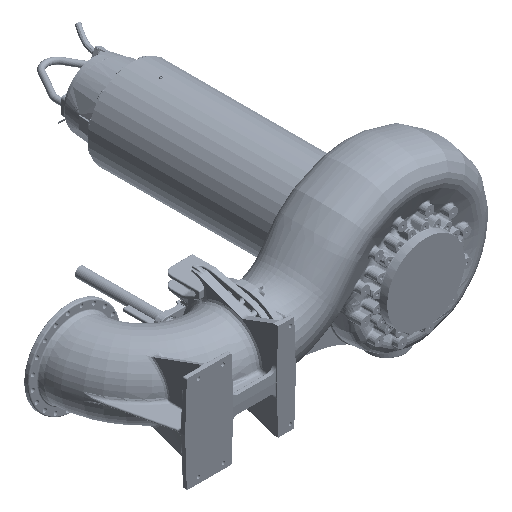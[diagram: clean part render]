
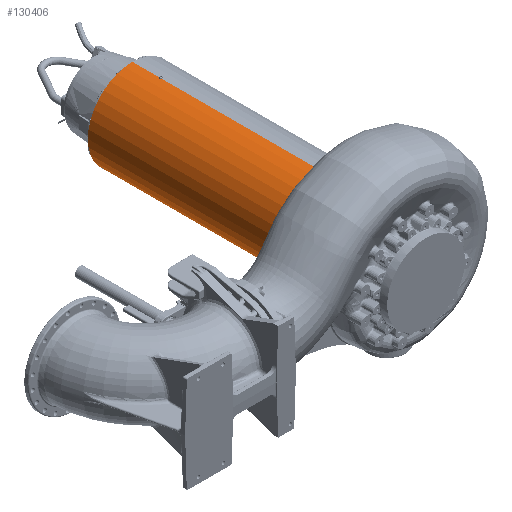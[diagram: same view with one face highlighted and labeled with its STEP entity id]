
A CAD part, isometric view. The second image highlights one B-rep face of the part: STEP entity #130406.
In plain terms, the highlighted cylindrical face has radius 391.5 mm (diameter 783 mm), a partial arc.
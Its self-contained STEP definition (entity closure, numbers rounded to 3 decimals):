
#1157 = CARTESIAN_POINT ( 'NONE',  ( -6.334, 1956.187, -391.462 ) ) ;
#3667 = CARTESIAN_POINT ( 'NONE',  ( -6.334, 1970.813, -391.462 ) ) ;
#13882 = AXIS2_PLACEMENT_3D ( 'NONE', #86376, #288856, #115411 ) ;
#16590 = CARTESIAN_POINT ( 'NONE',  ( 0., 2353.849, -391.5 ) ) ;
#16761 =( BOUNDED_CURVE ( )  B_SPLINE_CURVE ( 3, ( #347912, #318830, #1157, #203730 ),
 .UNSPECIFIED., .F., .F. ) 
 B_SPLINE_CURVE_WITH_KNOTS ( ( 4, 4 ),
 ( 4.712, 4.737 ),
 .UNSPECIFIED. ) 
 CURVE ( )  GEOMETRIC_REPRESENTATION_ITEM ( )  RATIONAL_B_SPLINE_CURVE ( ( 1., 1., 1., 1. ) ) 
 REPRESENTATION_ITEM ( '' )  );
#18587 = ORIENTED_EDGE ( 'NONE', *, *, #92349, .F. ) ;
#22774 = VECTOR ( 'NONE', #340060, 1000. ) ;
#25014 = EDGE_CURVE ( 'NONE', #363161, #72712, #264127, .T. ) ;
#31942 = CARTESIAN_POINT ( 'NONE',  ( 0., 2213.5, 0. ) ) ;
#32836 = DIRECTION ( 'NONE',  ( 0., 1., 0. ) ) ;
#35328 = CARTESIAN_POINT ( 'NONE',  ( -9.5, 1968.985, -391.385 ) ) ;
#35914 = CARTESIAN_POINT ( 'NONE',  ( -9.5, 1958.015, -391.385 ) ) ;
#38127 = EDGE_CURVE ( 'NONE', #320226, #363161, #129700, .T. ) ;
#38843 = CARTESIAN_POINT ( 'NONE',  ( -6.334, 1970.813, 391.462 ) ) ;
#48426 = ORIENTED_EDGE ( 'NONE', *, *, #264850, .T. ) ;
#54964 = CARTESIAN_POINT ( 'NONE',  ( -9.5, 1968.985, -391.385 ) ) ;
#55288 = CIRCLE ( 'NONE', #175703, 391.5 ) ;
#57565 = EDGE_CURVE ( 'NONE', #138152, #245851, #121696, .T. ) ;
#61001 = DIRECTION ( 'NONE',  ( 0., 0., -1. ) ) ;
#66804 = CARTESIAN_POINT ( 'NONE',  ( -3.167, 1954.359, 391.5 ) ) ;
#66954 = CARTESIAN_POINT ( 'NONE',  ( 0., 2353.849, 391.5 ) ) ;
#67970 = CARTESIAN_POINT ( 'NONE',  ( -9.5, 1968.985, 391.385 ) ) ;
#72712 = VERTEX_POINT ( 'NONE', #301786 ) ;
#74589 =( BOUNDED_CURVE ( )  B_SPLINE_CURVE ( 3, ( #269347, #66804, #124982, #327436 ),
 .UNSPECIFIED., .F., .F. ) 
 B_SPLINE_CURVE_WITH_KNOTS ( ( 4, 4 ),
 ( 4.712, 4.737 ),
 .UNSPECIFIED. ) 
 CURVE ( )  GEOMETRIC_REPRESENTATION_ITEM ( )  RATIONAL_B_SPLINE_CURVE ( ( 1., 1., 1., 1. ) ) 
 REPRESENTATION_ITEM ( '' )  );
#83006 = CARTESIAN_POINT ( 'NONE',  ( 0., 2213.5, 391.5 ) ) ;
#86376 = CARTESIAN_POINT ( 'NONE',  ( 0., 409.5, 0. ) ) ;
#92349 = EDGE_CURVE ( 'NONE', #193449, #228971, #372022, .T. ) ;
#97083 = CARTESIAN_POINT ( 'NONE',  ( 0., 1974.47, 391.5 ) ) ;
#97364 = VERTEX_POINT ( 'NONE', #83006 ) ;
#107573 = CARTESIAN_POINT ( 'NONE',  ( 0., 2213.5, -391.5 ) ) ;
#111837 = ORIENTED_EDGE ( 'NONE', *, *, #150541, .T. ) ;
#113151 = EDGE_CURVE ( 'NONE', #351912, #97364, #55288, .T. ) ;
#115411 = DIRECTION ( 'NONE',  ( 0., 0., -1. ) ) ;
#115851 = EDGE_LOOP ( 'NONE', ( #111837, #48426, #324935, #322087, #228525, #233758, #373616, #286593, #127085, #18587, #242161, #310806 ) ) ;
#121696 = LINE ( 'NONE', #16590, #275785 ) ;
#122626 = CARTESIAN_POINT ( 'NONE',  ( 0., 1974.47, -391.5 ) ) ;
#124778 = DIRECTION ( 'NONE',  ( 0., 1., 0. ) ) ;
#124982 = CARTESIAN_POINT ( 'NONE',  ( -6.334, 1956.187, 391.462 ) ) ;
#127085 = ORIENTED_EDGE ( 'NONE', *, *, #320037, .F. ) ;
#129700 = LINE ( 'NONE', #287925, #283780 ) ;
#130406 = ADVANCED_FACE ( 'NONE', ( #167537 ), #208161, .T. ) ;
#138152 = VERTEX_POINT ( 'NONE', #247756 ) ;
#143782 = CARTESIAN_POINT ( 'NONE',  ( 0., 2353.849, -391.5 ) ) ;
#150541 = EDGE_CURVE ( 'NONE', #138152, #180655, #245754, .T. ) ;
#151701 = CARTESIAN_POINT ( 'NONE',  ( 0., 1974.47, -391.5 ) ) ;
#153918 = CARTESIAN_POINT ( 'NONE',  ( -9.5, 2353.849, -391.385 ) ) ;
#167537 = FACE_OUTER_BOUND ( 'NONE', #115851, .T. ) ;
#171398 = CARTESIAN_POINT ( 'NONE',  ( 0., 2353.849, 0. ) ) ;
#175703 = AXIS2_PLACEMENT_3D ( 'NONE', #31942, #234442, #61001 ) ;
#180655 = VERTEX_POINT ( 'NONE', #204508 ) ;
#190932 = LINE ( 'NONE', #321352, #267916 ) ;
#193449 = VERTEX_POINT ( 'NONE', #35914 ) ;
#198174 =( BOUNDED_CURVE ( )  B_SPLINE_CURVE ( 3, ( #35328, #3667, #325091, #151701 ),
 .UNSPECIFIED., .F., .F. ) 
 B_SPLINE_CURVE_WITH_KNOTS ( ( 4, 4 ),
 ( 4.688, 4.712 ),
 .UNSPECIFIED. ) 
 CURVE ( )  GEOMETRIC_REPRESENTATION_ITEM ( )  RATIONAL_B_SPLINE_CURVE ( ( 1., 1., 1., 1. ) ) 
 REPRESENTATION_ITEM ( '' )  );
#203730 = CARTESIAN_POINT ( 'NONE',  ( -9.5, 1958.015, -391.385 ) ) ;
#204508 = CARTESIAN_POINT ( 'NONE',  ( 0., 409.5, 391.5 ) ) ;
#208161 = CYLINDRICAL_SURFACE ( 'NONE', #312797, 391.5 ) ;
#212258 = CARTESIAN_POINT ( 'NONE',  ( -3.167, 1972.641, 391.5 ) ) ;
#214148 = CARTESIAN_POINT ( 'NONE',  ( 0., 1952.53, 391.5 ) ) ;
#216523 = VECTOR ( 'NONE', #269505, 1000. ) ;
#219118 = DIRECTION ( 'NONE',  ( 0., 1., 0. ) ) ;
#220657 = VERTEX_POINT ( 'NONE', #214148 ) ;
#221058 = EDGE_CURVE ( 'NONE', #245851, #193449, #16761, .T. ) ;
#227358 = VECTOR ( 'NONE', #124778, 1000. ) ;
#228525 = ORIENTED_EDGE ( 'NONE', *, *, #25014, .T. ) ;
#228971 = VERTEX_POINT ( 'NONE', #54964 ) ;
#231151 = CARTESIAN_POINT ( 'NONE',  ( 0., 1952.53, -391.5 ) ) ;
#233758 = ORIENTED_EDGE ( 'NONE', *, *, #287927, .T. ) ;
#234442 = DIRECTION ( 'NONE',  ( 0., 1., 0. ) ) ;
#242161 = ORIENTED_EDGE ( 'NONE', *, *, #221058, .F. ) ;
#244648 = LINE ( 'NONE', #143782, #22774 ) ;
#245754 = CIRCLE ( 'NONE', #13882, 391.5 ) ;
#245851 = VERTEX_POINT ( 'NONE', #231151 ) ;
#247756 = CARTESIAN_POINT ( 'NONE',  ( 0., 409.5, -391.5 ) ) ;
#255115 = DIRECTION ( 'NONE',  ( 0., 1., 0. ) ) ;
#264127 =( BOUNDED_CURVE ( )  B_SPLINE_CURVE ( 3, ( #67970, #38843, #212258, #97083 ),
 .UNSPECIFIED., .F., .F. ) 
 B_SPLINE_CURVE_WITH_KNOTS ( ( 4, 4 ),
 ( 4.688, 4.712 ),
 .UNSPECIFIED. ) 
 CURVE ( )  GEOMETRIC_REPRESENTATION_ITEM ( )  RATIONAL_B_SPLINE_CURVE ( ( 1., 1., 1., 1. ) ) 
 REPRESENTATION_ITEM ( '' )  );
#264850 = EDGE_CURVE ( 'NONE', #180655, #220657, #190932, .T. ) ;
#267916 = VECTOR ( 'NONE', #32836, 1000. ) ;
#269347 = CARTESIAN_POINT ( 'NONE',  ( 0., 1952.53, 391.5 ) ) ;
#269505 = DIRECTION ( 'NONE',  ( 0., 1., 0. ) ) ;
#271300 = CARTESIAN_POINT ( 'NONE',  ( -9.5, 1968.985, 391.385 ) ) ;
#275785 = VECTOR ( 'NONE', #219118, 1000. ) ;
#283780 = VECTOR ( 'NONE', #255115, 1000. ) ;
#286593 = ORIENTED_EDGE ( 'NONE', *, *, #320575, .F. ) ;
#287925 = CARTESIAN_POINT ( 'NONE',  ( -9.5, 2353.849, 391.385 ) ) ;
#287927 = EDGE_CURVE ( 'NONE', #72712, #97364, #370307, .T. ) ;
#288856 = DIRECTION ( 'NONE',  ( 0., 1., 0. ) ) ;
#301786 = CARTESIAN_POINT ( 'NONE',  ( 0., 1974.47, 391.5 ) ) ;
#310806 = ORIENTED_EDGE ( 'NONE', *, *, #57565, .F. ) ;
#312797 = AXIS2_PLACEMENT_3D ( 'NONE', #171398, #315632, #345958 ) ;
#315632 = DIRECTION ( 'NONE',  ( 0., 1., 0. ) ) ;
#318830 = CARTESIAN_POINT ( 'NONE',  ( -3.167, 1954.359, -391.5 ) ) ;
#320037 = EDGE_CURVE ( 'NONE', #228971, #343772, #198174, .T. ) ;
#320226 = VERTEX_POINT ( 'NONE', #330075 ) ;
#320575 = EDGE_CURVE ( 'NONE', #343772, #351912, #244648, .T. ) ;
#321352 = CARTESIAN_POINT ( 'NONE',  ( 0., 2353.849, 391.5 ) ) ;
#322087 = ORIENTED_EDGE ( 'NONE', *, *, #38127, .T. ) ;
#324935 = ORIENTED_EDGE ( 'NONE', *, *, #335321, .T. ) ;
#325091 = CARTESIAN_POINT ( 'NONE',  ( -3.167, 1972.641, -391.5 ) ) ;
#327436 = CARTESIAN_POINT ( 'NONE',  ( -9.5, 1958.015, 391.385 ) ) ;
#330075 = CARTESIAN_POINT ( 'NONE',  ( -9.5, 1958.015, 391.385 ) ) ;
#335321 = EDGE_CURVE ( 'NONE', #220657, #320226, #74589, .T. ) ;
#340060 = DIRECTION ( 'NONE',  ( 0., 1., 0. ) ) ;
#343772 = VERTEX_POINT ( 'NONE', #122626 ) ;
#345958 = DIRECTION ( 'NONE',  ( 0., 0., -1. ) ) ;
#347912 = CARTESIAN_POINT ( 'NONE',  ( 0., 1952.53, -391.5 ) ) ;
#351912 = VERTEX_POINT ( 'NONE', #107573 ) ;
#363161 = VERTEX_POINT ( 'NONE', #271300 ) ;
#370307 = LINE ( 'NONE', #66954, #216523 ) ;
#372022 = LINE ( 'NONE', #153918, #227358 ) ;
#373616 = ORIENTED_EDGE ( 'NONE', *, *, #113151, .F. ) ;
